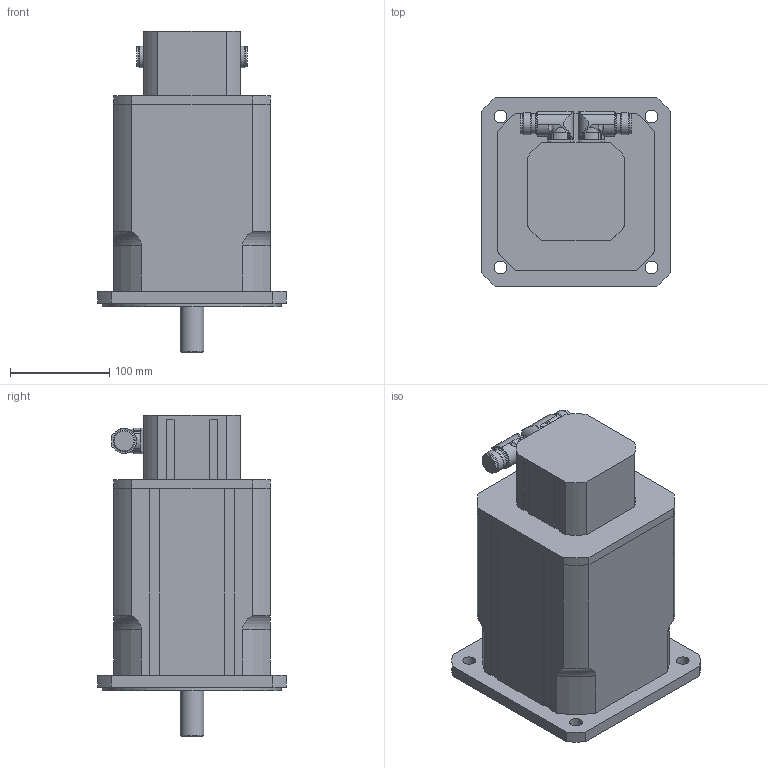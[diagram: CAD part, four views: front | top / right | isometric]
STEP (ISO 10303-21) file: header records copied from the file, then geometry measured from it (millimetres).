
FILE_DESCRIPTION(/* description */ ('Alibre Inc.'),/* implementation_level */ '2;1');
FILE_NAME(/* name */ 'export0',/* time_stamp */ '2011-12-09T09:24:06+01:00',/* author */ (''),/* organization */ (''),/* preprocessor_version */ 'ST-DEVELOPER v12',/* originating_system */ 'Alibre',/* authorisation */ '');
FILE_SCHEMA (('AUTOMOTIVE_DESIGN'));
Length unit declared in the file: millimetre
Products named in the file (5): ID_1
Bounding box: 190 x 190 x 324 mm (x, y, z)
Volume: 5851529.4 mm3; surface area: 315637.1 mm2
Topology: 5 solids, 5 shells, 235 faces, 631 edges, 417 vertices
Faces by surface type: cylinder 116, plane 103, cone 10, torus 4, bspline 2
Full cylindrical faces by diameter (mm): 2.7 x8, 6.647 x1, 13 x4, 20 x8, 22 x4, 24 x1, 25 x1, 180 x1
Entity records: 5641 total; most frequent: CARTESIAN_POINT 1429, ORIENTED_EDGE 832, DIRECTION 809, EDGE_CURVE 416, AXIS2_PLACEMENT_3D 330, VERTEX_POINT 292, VECTOR 231, LINE 231
